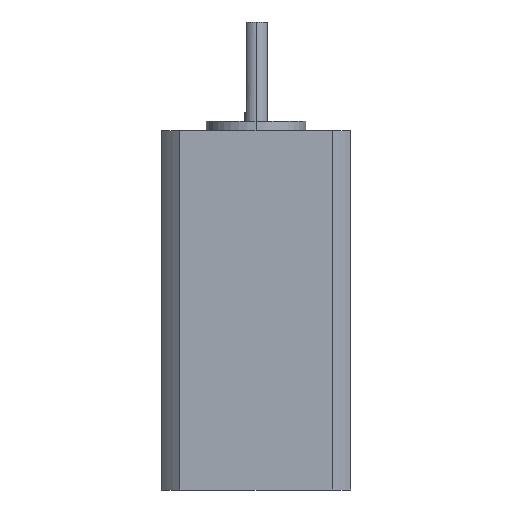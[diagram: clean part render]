
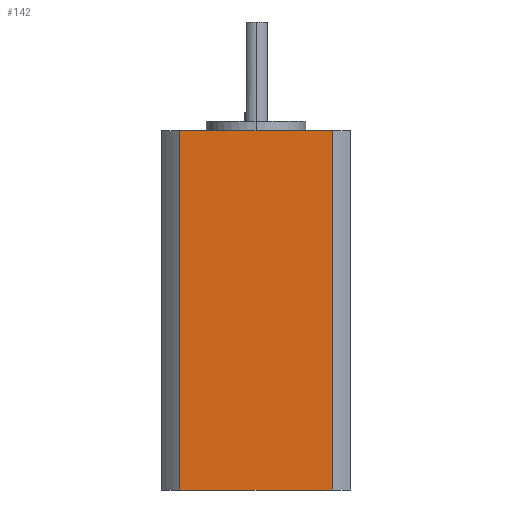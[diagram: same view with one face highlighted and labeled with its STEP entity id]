
A CAD part, left-side view. The second image highlights one B-rep face of the part: STEP entity #142.
In plain terms, the highlighted planar face has unit normal (-1, 0, 0).
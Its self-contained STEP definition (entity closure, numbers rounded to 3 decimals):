
#67 = VECTOR ( 'NONE', #2630, 1000. ) ;
#142 = ADVANCED_FACE ( 'NONE', ( #2685 ), #3313, .F. ) ;
#213 = CARTESIAN_POINT ( 'NONE',  ( -21., -16.851, 0. ) ) ;
#227 = ORIENTED_EDGE ( 'NONE', *, *, #1725, .T. ) ;
#258 = VERTEX_POINT ( 'NONE', #2948 ) ;
#319 = DIRECTION ( 'NONE',  ( 0., 0., -1. ) ) ;
#477 = EDGE_CURVE ( 'NONE', #3528, #258, #573, .T. ) ;
#519 = LINE ( 'NONE', #879, #3084 ) ;
#573 = LINE ( 'NONE', #1379, #67 ) ;
#863 = DIRECTION ( 'NONE',  ( 0., -1., 0. ) ) ;
#879 = CARTESIAN_POINT ( 'NONE',  ( -21., -16.851, 79.5 ) ) ;
#898 = CARTESIAN_POINT ( 'NONE',  ( -21., -16.851, 79.5 ) ) ;
#983 = ORIENTED_EDGE ( 'NONE', *, *, #3220, .F. ) ;
#1096 = ORIENTED_EDGE ( 'NONE', *, *, #2368, .F. ) ;
#1189 = VECTOR ( 'NONE', #3422, 1000. ) ;
#1315 = ORIENTED_EDGE ( 'NONE', *, *, #477, .T. ) ;
#1379 = CARTESIAN_POINT ( 'NONE',  ( -21., 16.851, 79.5 ) ) ;
#1637 = LINE ( 'NONE', #2548, #1189 ) ;
#1712 = CARTESIAN_POINT ( 'NONE',  ( -21., -16.851, 79.5 ) ) ;
#1725 = EDGE_CURVE ( 'NONE', #258, #2374, #3114, .T. ) ;
#2001 = VECTOR ( 'NONE', #2842, 1000. ) ;
#2064 = DIRECTION ( 'NONE',  ( 1., 0., 0. ) ) ;
#2085 = AXIS2_PLACEMENT_3D ( 'NONE', #898, #2064, #319 ) ;
#2346 = CARTESIAN_POINT ( 'NONE',  ( -21., 16.851, 79.5 ) ) ;
#2368 = EDGE_CURVE ( 'NONE', #3528, #3232, #519, .T. ) ;
#2374 = VERTEX_POINT ( 'NONE', #213 ) ;
#2433 = EDGE_LOOP ( 'NONE', ( #227, #983, #1096, #1315 ) ) ;
#2548 = CARTESIAN_POINT ( 'NONE',  ( -21., -16.851, 79.5 ) ) ;
#2630 = DIRECTION ( 'NONE',  ( 0., 0., -1. ) ) ;
#2685 = FACE_OUTER_BOUND ( 'NONE', #2433, .T. ) ;
#2842 = DIRECTION ( 'NONE',  ( 0., -1., 0. ) ) ;
#2948 = CARTESIAN_POINT ( 'NONE',  ( -21., 16.851, 0. ) ) ;
#3084 = VECTOR ( 'NONE', #863, 1000. ) ;
#3114 = LINE ( 'NONE', #3375, #2001 ) ;
#3220 = EDGE_CURVE ( 'NONE', #3232, #2374, #1637, .T. ) ;
#3232 = VERTEX_POINT ( 'NONE', #1712 ) ;
#3313 = PLANE ( 'NONE',  #2085 ) ;
#3375 = CARTESIAN_POINT ( 'NONE',  ( -21., -16.851, 0. ) ) ;
#3422 = DIRECTION ( 'NONE',  ( 0., 0., -1. ) ) ;
#3528 = VERTEX_POINT ( 'NONE', #2346 ) ;
